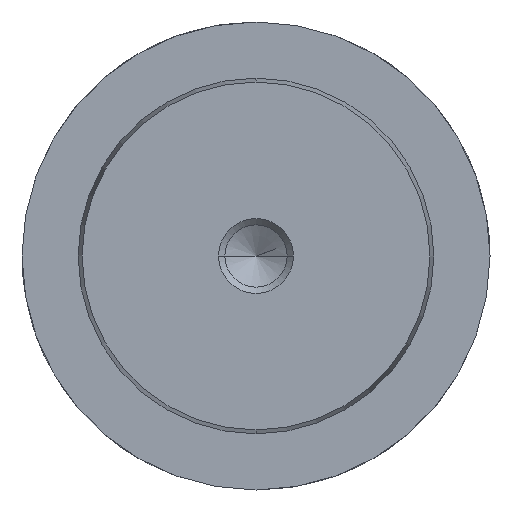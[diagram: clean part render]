
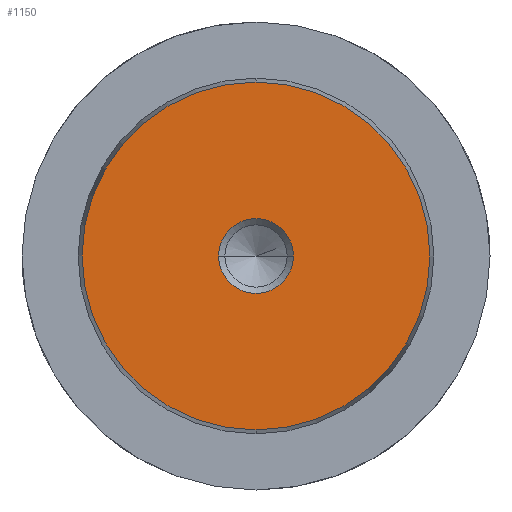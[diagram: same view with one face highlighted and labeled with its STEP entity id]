
A CAD part, left-side view. The second image highlights one B-rep face of the part: STEP entity #1150.
In plain terms, the highlighted planar face has unit normal (-1, 0, 0).
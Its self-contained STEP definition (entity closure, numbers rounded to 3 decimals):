
#1064=CARTESIAN_POINT('Vertex',(0.,0.,-18.578)) ;
#1067=CARTESIAN_POINT('Axis2P3D Location',(0.,0.,0.)) ;
#1071=CARTESIAN_POINT('Vertex',(0.,18.578,0.)) ;
#1074=CARTESIAN_POINT('Axis2P3D Location',(0.,0.,0.)) ;
#1078=CARTESIAN_POINT('Vertex',(0.,0.,18.578)) ;
#1100=CARTESIAN_POINT('Axis2P3D Location',(0.,0.,0.)) ;
#1104=CARTESIAN_POINT('Vertex',(0.,-18.578,0.)) ;
#1107=CARTESIAN_POINT('Axis2P3D Location',(0.,0.,0.)) ;
#1121=CARTESIAN_POINT('Axis2P3D Location',(0.,0.,0.)) ;
#1132=CARTESIAN_POINT('Axis2P3D Location',(0.,0.,0.)) ;
#1136=CARTESIAN_POINT('Vertex',(0.,4.,0.)) ;
#1138=CARTESIAN_POINT('Vertex',(0.,-4.,0.)) ;
#1141=CARTESIAN_POINT('Axis2P3D Location',(0.,0.,0.)) ;
#1068=DIRECTION('Axis2P3D Direction',(1.,0.,-0.)) ;
#1075=DIRECTION('Axis2P3D Direction',(1.,0.,-0.)) ;
#1101=DIRECTION('Axis2P3D Direction',(1.,0.,-0.)) ;
#1108=DIRECTION('Axis2P3D Direction',(1.,0.,-0.)) ;
#1122=DIRECTION('Axis2P3D Direction',(1.,0.,-0.)) ;
#1123=DIRECTION('Axis2P3D XDirection',(-0.,0.,-1.)) ;
#1133=DIRECTION('Axis2P3D Direction',(1.,0.,-0.)) ;
#1142=DIRECTION('Axis2P3D Direction',(1.,0.,-0.)) ;
#1069=AXIS2_PLACEMENT_3D('Circle Axis2P3D',#1067,#1068,$) ;
#1076=AXIS2_PLACEMENT_3D('Circle Axis2P3D',#1074,#1075,$) ;
#1102=AXIS2_PLACEMENT_3D('Circle Axis2P3D',#1100,#1101,$) ;
#1109=AXIS2_PLACEMENT_3D('Circle Axis2P3D',#1107,#1108,$) ;
#1124=AXIS2_PLACEMENT_3D('Plane Axis2P3D',#1121,#1122,#1123) ;
#1134=AXIS2_PLACEMENT_3D('Circle Axis2P3D',#1132,#1133,$) ;
#1143=AXIS2_PLACEMENT_3D('Circle Axis2P3D',#1141,#1142,$) ;
#1127=ORIENTED_EDGE('',*,*,#1073,.F.) ;
#1128=ORIENTED_EDGE('',*,*,#1111,.F.) ;
#1129=ORIENTED_EDGE('',*,*,#1106,.F.) ;
#1130=ORIENTED_EDGE('',*,*,#1080,.F.) ;
#1147=ORIENTED_EDGE('',*,*,#1140,.T.) ;
#1148=ORIENTED_EDGE('',*,*,#1145,.T.) ;
#1149=FACE_BOUND('',#1146,.T.) ;
#1150=ADVANCED_FACE('718-38x140',(#1131,#1149),#1125,.F.) ;
#1070=CIRCLE('generated circle',#1069,18.578) ;
#1077=CIRCLE('generated circle',#1076,18.578) ;
#1103=CIRCLE('generated circle',#1102,18.578) ;
#1110=CIRCLE('generated circle',#1109,18.578) ;
#1135=CIRCLE('generated circle',#1134,4.) ;
#1144=CIRCLE('generated circle',#1143,4.) ;
#1073=EDGE_CURVE('',#1065,#1072,#1070,.T.) ;
#1080=EDGE_CURVE('',#1072,#1079,#1077,.T.) ;
#1106=EDGE_CURVE('',#1079,#1105,#1103,.T.) ;
#1111=EDGE_CURVE('',#1105,#1065,#1110,.T.) ;
#1140=EDGE_CURVE('',#1137,#1139,#1135,.T.) ;
#1145=EDGE_CURVE('',#1139,#1137,#1144,.T.) ;
#1126=EDGE_LOOP('',(#1127,#1128,#1129,#1130)) ;
#1146=EDGE_LOOP('',(#1147,#1148)) ;
#1131=FACE_OUTER_BOUND('',#1126,.T.) ;
#1125=PLANE('Plane',#1124) ;
#1065=VERTEX_POINT('',#1064) ;
#1072=VERTEX_POINT('',#1071) ;
#1079=VERTEX_POINT('',#1078) ;
#1105=VERTEX_POINT('',#1104) ;
#1137=VERTEX_POINT('',#1136) ;
#1139=VERTEX_POINT('',#1138) ;
